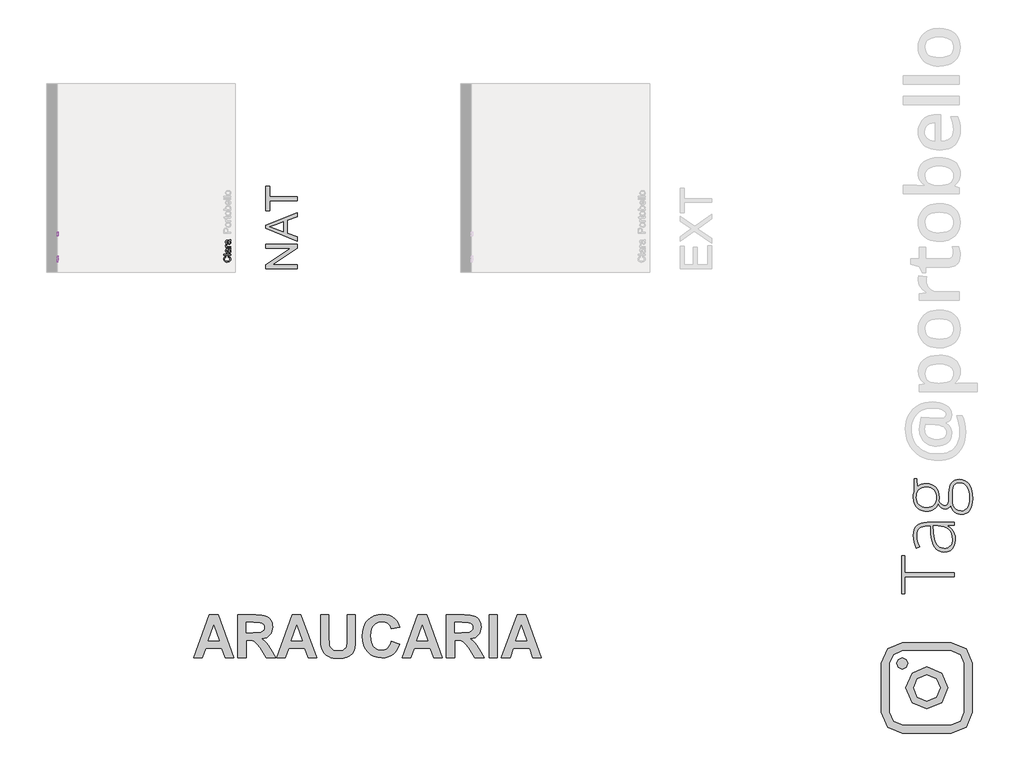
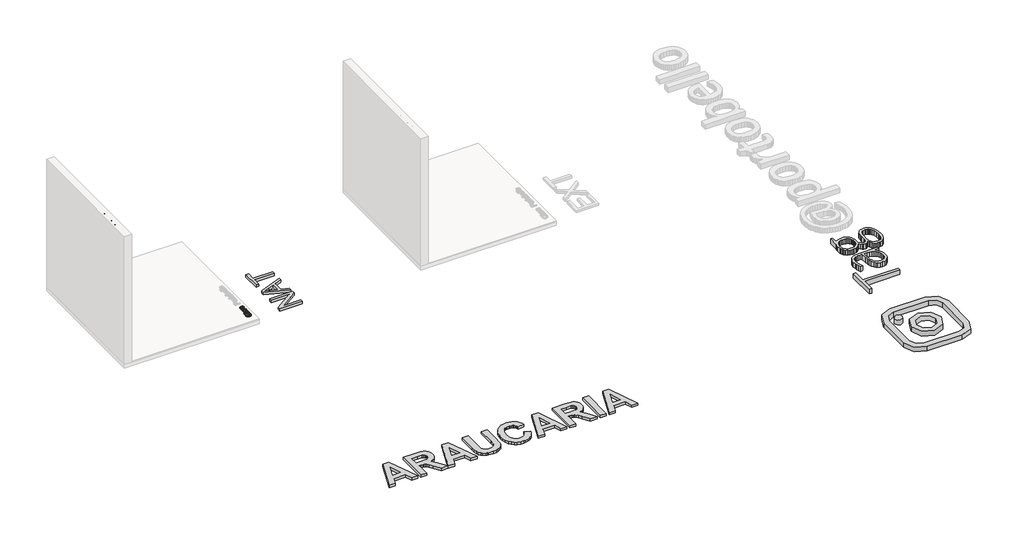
# One storey, part 2 of 6: 7 proxies.
"""IFC4 building model written with IfcOpenShell, lengths in millimetres."""

from ifc_helpers import new_model, si_unit, frame, origin, origin_with_axes, place, context, project, spatial, polyline, outline, extrude, transform, mapped, element, save
from components import generic_models_d67f6705

model = new_model("IFC4")

# Units and contexts
model_context = context("Model", 3, world=origin())
ifc_project = project(units=[si_unit("LENGTHUNIT", "METRE", prefix="MILLI")], contexts=[model_context])

# Site, building, storey
site = spatial("IfcSite", under=ifc_project)
building = spatial("IfcBuilding", under=site)
storey = spatial("IfcBuildingStorey", under=building, Name="PORTOBELLO - SHOWROOM", Elevation=0.0)

# Proxies
placement = place(None, origin())
generic_models_shape = generic_models_d67f6705(model_context)
element("IfcBuildingElementProxy", 1, Name="Blks_Instagram1 : Único 2", ObjectType="Blks_Instagram1 : Único 2", at=placement, inside=storey, context=model_context, shape_type="MappedRepresentation", body=[
    mapped(generic_models_shape, transform((157161.0536676, -13321.2406298, 0.0), x_axis=(-1.0, 0.0, 0.0), y_axis=(0.0, -1.0, 0.0), z_axis=(0.0, 0.0, 1.0))),
])
element("IfcBuildingElementProxy", 2, Name="10mm Arial", ObjectType="10mm Arial", at=placement, inside=storey, context=model_context, shape_type="SweptSolid", body=[
    extrude(outline(polyline([(-7152.1748639, 2563.7375666), (-7139.6178251, 2560.5002051), (-7145.4119666, 2545.8676987), (-7154.5047832, 2535.1776611), (-7166.4486853, 2528.6385586), (-7180.7960831, 2526.4588578), (-7195.3611445, 2528.1081954), (-7206.9279675, 2533.0562082), (-7215.7939236, 2541.131218), (-7222.256384, 2552.1615465), (-7227.5170965, 2579.0169322), (-7226.0302401, 2593.664767), (-7221.5696709, 2606.3137762), (-7214.3683809, 2616.5623555), (-7204.6593619, 2624.0089002), (-7193.1446554, 2628.5430458), (-7180.526303, 2630.0544276), (-7166.7583193, 2628.0985217), (-7155.3754373, 2622.2308039), (-7146.7332761, 2612.8130248), (-7141.187455, 2600.2069351), (-7153.7444938, 2597.2148282), (-7164.0451896, 2612.6536093), (-7181.0168123, 2617.4973889), (-7200.6617109, 2612.1263117), (-7211.7594844, 2597.7053375), (-7214.9600577, 2579.0414576), (-7211.1708732, 2557.4099963), (-7199.3741239, 2543.589896), (-7182.0468819, 2539.0158966), (-7171.5653107, 2540.5732637), (-7162.831179, 2545.245365), (-7156.2368943, 2552.9831497), (-7152.1748639, 2563.7375666)])), frame((144712.4628922, 0.0, 0.0), z_axis=(1.0, 0.0, 0.0), x_axis=(0.0, 1.0, 0.0)), (0.0, 0.0, 1.0), 20.0),
    extrude(outline(polyline([(144732.4628922, -7111.3644879), (144732.4628922, -7123.9215267), (144712.4628922, -7123.9215267), (144712.4628922, -7111.3644879), (144732.4628922, -7111.3644879)])), frame((0.0, 0.0, 2528.0284876), z_axis=(0.0, 0.0, 1.0), x_axis=(1.0, 0.0, 0.0)), (0.0, 0.0, 1.0), 100.4563101),
    extrude(outline(polyline([(-7045.4400344, 2537.4462667), (-7057.6169284, 2528.9359299), (-7071.0691467, 2526.4588578), (-7081.5629806, 2527.9487799), (-7089.3038309, 2532.4185461), (-7094.0770998, 2539.2059689), (-7095.6681894, 2547.6488607), (-7093.2646937, 2557.5816746), (-7086.9493862, 2564.7921617), (-7078.1570065, 2568.91244), (-7067.2922249, 2570.800901), (-7045.5136108, 2575.117383), (-7045.4400344, 2577.9132862), (-7048.8981251, 2587.1839125), (-7062.7795391, 2590.8136815), (-7075.4837306, 2588.3979231), (-7081.5415208, 2579.8262726), (-7094.0985596, 2581.3959024), (-7088.6661688, 2593.6586356), (-7077.7278108, 2600.8445972), (-7061.1608583, 2603.3707203), (-7045.9428064, 2601.1389028), (-7037.3466305, 2595.5348338), (-7033.4961323, 2587.0122342), (-7032.8829956, 2576.0248253), (-7032.8829956, 2560.4021032), (-7032.2453335, 2538.5867009), (-7029.7437359, 2528.0284876), (-7042.3007747, 2528.0284876), (-7045.4400344, 2537.4462667)]), holes=[polyline([(-7045.4400344, 2562.5603443), (-7065.6980696, 2558.709846), (-7076.5015375, 2556.6742323), (-7081.394368, 2553.3632944), (-7083.1111507, 2548.5317775), (-7079.3710171, 2541.7382233), (-7068.3958709, 2539.0158966), (-7055.6916793, 2542.0202662), (-7047.5001735, 2549.292067), (-7045.5136108, 2559.0041516), (-7045.4400344, 2562.5603443)])]), frame((144712.4628922, 0.0, 0.0), z_axis=(1.0, 0.0, 0.0), x_axis=(0.0, 1.0, 0.0)), (0.0, 0.0, 1.0), 20.0),
    extrude(outline(polyline([(-7015.6170673, 2528.0284876), (-7015.6170673, 2601.8010904), (-7004.6296584, 2601.8010904), (-7004.6296584, 2590.8872579), (-6996.8305601, 2600.9426991), (-6988.9824108, 2603.3707203), (-6976.3763211, 2599.4956966), (-6980.5701759, 2588.2385075), (-6989.3993438, 2590.8136815), (-6996.4994663, 2588.3366094), (-7001.0244148, 2581.4694788), (-7003.0600285, 2566.8032499), (-7003.0600285, 2528.0284876), (-7015.6170673, 2528.0284876)])), frame((144712.4628922, 0.0, 0.0), z_axis=(1.0, 0.0, 0.0), x_axis=(0.0, 1.0, 0.0)), (0.0, 0.0, 1.0), 20.0),
    extrude(outline(polyline([(-6921.4392765, 2537.4462667), (-6933.6161706, 2528.9359299), (-6947.0683889, 2526.4588578), (-6957.5622228, 2527.9487799), (-6965.3030731, 2532.4185461), (-6970.076342, 2539.2059689), (-6971.6674316, 2547.6488607), (-6969.2639359, 2557.5816746), (-6962.9486283, 2564.7921617), (-6954.1562486, 2568.91244), (-6943.291467, 2570.800901), (-6921.5128529, 2575.117383), (-6921.4392765, 2577.9132862), (-6924.8973673, 2587.1839125), (-6938.7787812, 2590.8136815), (-6951.4829728, 2588.3979231), (-6957.540763, 2579.8262726), (-6970.0978018, 2581.3959024), (-6964.665411, 2593.6586356), (-6953.727053, 2600.8445972), (-6937.1601005, 2603.3707203), (-6921.9420486, 2601.1389028), (-6913.3458726, 2595.5348338), (-6909.4953744, 2587.0122342), (-6908.8822378, 2576.0248253), (-6908.8822378, 2560.4021032), (-6908.2445756, 2538.5867009), (-6905.7429781, 2528.0284876), (-6918.3000168, 2528.0284876), (-6921.4392765, 2537.4462667)]), holes=[polyline([(-6921.4392765, 2562.5603443), (-6941.6973117, 2558.709846), (-6952.5007797, 2556.6742323), (-6957.3936102, 2553.3632944), (-6959.1103928, 2548.5317775), (-6955.3702592, 2541.7382233), (-6944.395113, 2539.0158966), (-6931.6909215, 2542.0202662), (-6923.4994157, 2549.292067), (-6921.5128529, 2559.0041516), (-6921.4392765, 2562.5603443)])]), frame((144712.4628922, 0.0, 0.0), z_axis=(1.0, 0.0, 0.0), x_axis=(0.0, 1.0, 0.0)), (0.0, 0.0, 1.0), 20.0),
])
element("IfcBuildingElementProxy", 3, Name="10mm Arial", ObjectType="10mm Arial", at=placement, inside=storey, context=model_context, shape_type="SweptSolid", body=[
    extrude(outline(polyline([(147162.6805155, -7154.2321856), (147165.9178771, -7141.6751468), (147180.5503834, -7147.4692882), (147191.2404211, -7156.5621049), (147197.7795235, -7168.506007), (147199.9592243, -7182.8534048), (147198.3098867, -7197.4184661), (147193.3618739, -7208.9852892), (147185.2868641, -7217.8512453), (147174.2565356, -7224.3137056), (147147.40115, -7229.5744182), (147132.7533152, -7228.0875618), (147120.1043059, -7223.6269926), (147109.8557267, -7216.4257025), (147102.409182, -7206.7166835), (147097.8750364, -7195.2019771), (147096.3636545, -7182.5836247), (147098.3195604, -7168.815641), (147104.1872783, -7157.4327589), (147113.6050573, -7148.7905977), (147126.211147, -7143.2447766), (147129.2032539, -7155.8018154), (147113.7644729, -7166.1025113), (147108.9206933, -7183.074134), (147114.2917704, -7202.7190325), (147128.7127446, -7213.816806), (147147.3766245, -7217.0173794), (147169.0080858, -7213.2281949), (147182.8281861, -7201.4314455), (147187.4021856, -7184.1042036), (147185.8448185, -7173.6226324), (147181.1727171, -7164.8885007), (147173.4349325, -7158.2942159), (147162.6805155, -7154.2321856)])), frame((0.0, 0.0, 17.0), z_axis=(0.0, 0.0, 1.0), x_axis=(1.0, 0.0, 0.0)), (0.0, 0.0, 1.0), 20.0),
    extrude(outline(polyline([(147198.3895945, -7125.9788483), (147097.9332844, -7125.9788483), (147097.9332844, -7113.4218096), (147198.3895945, -7113.4218096), (147198.3895945, -7125.9788483)])), frame((0.0, 0.0, 17.0), z_axis=(0.0, 0.0, 1.0), x_axis=(1.0, 0.0, 0.0)), (0.0, 0.0, 1.0), 20.0),
    extrude(outline(polyline([(147188.9718154, -7047.497356), (147197.4821522, -7059.6742501), (147199.9592243, -7073.1264684), (147198.4693023, -7083.6203023), (147193.999536, -7091.3611526), (147187.2121132, -7096.1344215), (147178.7692214, -7097.7255111), (147168.8364076, -7095.3220154), (147161.6259205, -7089.0067078), (147157.5056421, -7080.2143281), (147155.6171812, -7069.3495465), (147151.3006991, -7047.5709324), (147148.504796, -7047.497356), (147139.2341697, -7050.9554468), (147135.6044007, -7064.8368607), (147138.0201591, -7077.5410523), (147146.5918096, -7083.5988425), (147145.0221797, -7096.1558813), (147132.7594466, -7090.7234905), (147125.5734849, -7079.7851325), (147123.0473619, -7063.21818), (147125.2791793, -7048.0001281), (147130.8832484, -7039.4039521), (147139.4058479, -7035.5534539), (147150.3932569, -7034.9403173), (147166.0159789, -7034.9403173), (147187.8313812, -7034.3026551), (147198.3895945, -7031.8010576), (147198.3895945, -7044.3580963), (147188.9718154, -7047.497356)]), holes=[polyline([(147163.8577379, -7047.497356), (147167.7082361, -7067.7553912), (147169.7438498, -7078.5588592), (147173.0547878, -7083.4516897), (147177.8863046, -7085.1684723), (147184.6798588, -7081.4283387), (147187.4021856, -7070.4531925), (147184.397816, -7057.749001), (147177.1260152, -7049.5574952), (147167.4139305, -7047.5709324), (147163.8577379, -7047.497356)])]), frame((0.0, 0.0, 17.0), z_axis=(0.0, 0.0, 1.0), x_axis=(1.0, 0.0, 0.0)), (0.0, 0.0, 1.0), 20.0),
    extrude(outline(polyline([(147198.3895945, -7017.674389), (147124.6169917, -7017.674389), (147124.6169917, -7006.68698), (147135.5308243, -7006.68698), (147125.4753831, -6998.8878817), (147123.0473619, -6991.0397325), (147126.9223856, -6978.4336428), (147138.1795746, -6982.6274975), (147135.6044007, -6991.4566654), (147138.0814728, -6998.5567879), (147144.9486033, -7003.0817365), (147159.6148322, -7005.1173502), (147198.3895945, -7005.1173502), (147198.3895945, -7017.674389)])), frame((0.0, 0.0, 17.0), z_axis=(0.0, 0.0, 1.0), x_axis=(1.0, 0.0, 0.0)), (0.0, 0.0, 1.0), 20.0),
    extrude(outline(polyline([(147188.9718154, -6923.4965982), (147197.4821522, -6935.6734922), (147199.9592243, -6949.1257105), (147198.4693023, -6959.6195444), (147193.999536, -6967.3603947), (147187.2121132, -6972.1336636), (147178.7692214, -6973.7247533), (147168.8364076, -6971.3212576), (147161.6259205, -6965.00595), (147157.5056421, -6956.2135703), (147155.6171812, -6945.3487887), (147151.3006991, -6923.5701746), (147148.504796, -6923.4965982), (147139.2341697, -6926.9546889), (147135.6044007, -6940.8361029), (147138.0201591, -6953.5402945), (147146.5918096, -6959.5980846), (147145.0221797, -6972.1551234), (147132.7594466, -6966.7227326), (147125.5734849, -6955.7843746), (147123.0473619, -6939.2174221), (147125.2791793, -6923.9993702), (147130.8832484, -6915.4031943), (147139.4058479, -6911.5526961), (147150.3932569, -6910.9395594), (147166.0159789, -6910.9395594), (147187.8313812, -6910.3018973), (147198.3895945, -6907.8002997), (147198.3895945, -6920.3573385), (147188.9718154, -6923.4965982)]), holes=[polyline([(147163.8577379, -6923.4965982), (147167.7082361, -6943.7546334), (147169.7438498, -6954.5581013), (147173.0547878, -6959.4509319), (147177.8863046, -6961.1677145), (147184.6798588, -6957.4275809), (147187.4021856, -6946.4524347), (147184.397816, -6933.7482431), (147177.1260152, -6925.5567374), (147167.4139305, -6923.5701746), (147163.8577379, -6923.4965982)])]), frame((0.0, 0.0, 17.0), z_axis=(0.0, 0.0, 1.0), x_axis=(1.0, 0.0, 0.0)), (0.0, 0.0, 1.0), 20.0),
])
element("IfcBuildingElementProxy", 4, Name="10mm Arial Narrow", ObjectType="10mm Arial Narrow", at=placement, inside=storey, context=model_context, shape_type="SweptSolid", body=[
    extrude(outline(polyline([(-6855.6731479, 2528.0284876), (-6855.6731479, 2628.7470914), (-6824.3762632, 2628.7470914), (-6808.0805617, 2626.8687707), (-6796.6075755, 2617.3883275), (-6792.3178971, 2600.3692187), (-6794.1042055, 2588.2933931), (-6799.4631307, 2578.6669994), (-6809.2069195, 2572.365741), (-6824.1478188, 2570.2653215), (-6845.9261862, 2570.2653215), (-6845.9261862, 2528.0284876), (-6855.6731479, 2528.0284876)]), holes=[polyline([(-6845.9261862, 2581.6367767), (-6822.9548313, 2581.6367767), (-6807.0906359, 2586.1675909), (-6802.0648588, 2599.8361817), (-6804.5396732, 2610.0019581), (-6810.5173021, 2615.801908), (-6823.1832757, 2617.3756361), (-6845.9261862, 2617.3756361), (-6845.9261862, 2581.6367767)])]), frame((144712.4628922, 0.0, 0.0), z_axis=(1.0, 0.0, 0.0), x_axis=(0.0, 1.0, 0.0)), (0.0, 0.0, 1.0), 20.0),
    extrude(outline(polyline([(-6784.1954291, 2564.5795938), (-6782.2409602, 2581.1703694), (-6776.3775536, 2593.1224542), (-6767.5189869, 2600.3470088), (-6756.5790377, 2602.7551937), (-6745.7660021, 2600.3470088), (-6736.8820527, 2593.1224542), (-6730.9424979, 2581.3607397), (-6728.9626464, 2565.3410752), (-6730.9075967, 2548.1791886), (-6736.7424478, 2536.0367335), (-6745.591496, 2528.8121789), (-6756.5790377, 2526.403994), (-6767.4396659, 2528.8185246), (-6776.3140968, 2536.0621162), (-6782.225096, 2548.0205467), (-6784.1954291, 2564.5795938)]), holes=[polyline([(-6774.4484674, 2564.6049766), (-6773.1444306, 2552.0532252), (-6769.23232, 2543.1819671), (-6763.3911232, 2537.9087085), (-6756.2998279, 2536.1509557), (-6749.5797547, 2537.9245727), (-6743.8876814, 2543.2454239), (-6740.0041264, 2552.1325461), (-6738.709608, 2564.6049766), (-6740.0136449, 2577.1186539), (-6743.9257555, 2585.9772206), (-6749.7669522, 2591.2504792), (-6756.8582476, 2593.008232), (-6763.6259133, 2591.2409606), (-6769.3084681, 2585.9391465), (-6773.1634676, 2577.0710613), (-6774.4484674, 2564.6049766)])]), frame((144712.4628922, 0.0, 0.0), z_axis=(1.0, 0.0, 0.0), x_axis=(0.0, 1.0, 0.0)), (0.0, 0.0, 1.0), 20.0),
    extrude(outline(polyline([(-6657.4849276, 2536.1509557), (-6655.860434, 2526.403994), (-6663.2214206, 2526.403994), (-6671.4961849, 2528.5234505), (-6675.8112461, 2534.3234004), (-6676.9788509, 2548.9692256), (-6676.9788509, 2591.3837384), (-6685.1013189, 2591.3837384), (-6685.1013189, 2594.6327256), (-6686.7258125, 2589.7592448), (-6694.2898609, 2591.3837384), (-6700.3690206, 2589.0612202), (-6704.2398843, 2582.5759371), (-6706.2197358, 2567.1686305), (-6706.2197358, 2528.0284876), (-6715.9666975, 2528.0284876), (-6715.9666975, 2601.1307001), (-6706.2197358, 2601.1307001), (-6706.2197358, 2591.4345038), (-6699.9755885, 2600.5215149), (-6693.5791449, 2602.7551937), (-6685.1013189, 2601.1307001), (-6676.9788509, 2601.1307001), (-6676.9788509, 2617.3756361), (-6667.2318892, 2625.4981042), (-6667.2318892, 2601.1307001), (-6657.4849276, 2601.1307001), (-6657.4849276, 2591.3837384), (-6667.2318892, 2591.3837384), (-6667.2318892, 2546.7355469), (-6666.368877, 2538.7399924), (-6661.7492233, 2536.1509557), (-6657.4849276, 2536.1509557)])), frame((144712.4628922, 0.0, 0.0), z_axis=(1.0, 0.0, 0.0), x_axis=(0.0, 1.0, 0.0)), (0.0, 0.0, 1.0), 20.0),
    extrude(outline(polyline([(-6650.9869531, 2564.5795938), (-6649.0324843, 2581.1703694), (-6643.1690776, 2593.1224542), (-6634.3105109, 2600.3470088), (-6623.3705618, 2602.7551937), (-6612.5575262, 2600.3470088), (-6603.6735768, 2593.1224542), (-6597.734022, 2581.3607397), (-6595.7541704, 2565.3410752), (-6597.6991208, 2548.1791886), (-6603.5339719, 2536.0367335), (-6612.38302, 2528.8121789), (-6623.3705618, 2526.403994), (-6634.23119, 2528.8185246), (-6643.1056209, 2536.0621162), (-6649.0166201, 2548.0205467), (-6650.9869531, 2564.5795938)]), holes=[polyline([(-6641.2399915, 2564.6049766), (-6639.9359546, 2552.0532252), (-6636.023844, 2543.1819671), (-6630.1826473, 2537.9087085), (-6623.0913519, 2536.1509557), (-6616.3712788, 2537.9245727), (-6610.6792055, 2543.2454239), (-6606.7956504, 2552.1325461), (-6605.5011321, 2564.6049766), (-6606.8051689, 2577.1186539), (-6610.7172795, 2585.9772206), (-6616.5584763, 2591.2504792), (-6623.6497716, 2593.008232), (-6630.4174374, 2591.2409606), (-6636.0999922, 2585.9391465), (-6639.9549917, 2577.0710613), (-6641.2399915, 2564.6049766)])]), frame((144712.4628922, 0.0, 0.0), z_axis=(1.0, 0.0, 0.0), x_axis=(0.0, 1.0, 0.0)), (0.0, 0.0, 1.0), 20.0),
    extrude(outline(polyline([(-6573.0112599, 2528.0284876), (-6582.7582216, 2528.0284876), (-6582.7582216, 2628.7470914), (-6573.0112599, 2628.7470914), (-6573.0112599, 2593.3382073), (-6565.6121992, 2600.4199841), (-6556.4109658, 2602.7551937), (-6543.5292392, 2598.5543547), (-6534.2518577, 2585.8249243), (-6530.7744261, 2565.1380135), (-6532.7066851, 2548.6836701), (-6538.5034621, 2536.480931), (-6546.8765844, 2528.9232283), (-6556.5378794, 2526.403994), (-6565.8787177, 2529.0184134), (-6573.0112599, 2536.7855235), (-6573.0112599, 2528.0284876)]), holes=[polyline([(-6573.0112599, 2565.1380135), (-6570.9298775, 2547.8904603), (-6565.0410881, 2539.1588071), (-6556.5886448, 2536.1509557), (-6550.6459172, 2537.9404369), (-6545.4075599, 2543.3088807), (-6540.5213877, 2564.7318901), (-6545.2298809, 2586.1675909), (-6550.4745839, 2591.2980717), (-6556.7917065, 2593.008232), (-6562.7693354, 2591.2187508), (-6568.0616309, 2585.850307), (-6573.0112599, 2565.1380135)])]), frame((144712.4628922, 0.0, 0.0), z_axis=(1.0, 0.0, 0.0), x_axis=(0.0, 1.0, 0.0)), (0.0, 0.0, 1.0), 20.0),
    extrude(outline(polyline([(-6478.7906306, 2550.7713982), (-6469.0436689, 2549.1469046), (-6472.7431993, 2539.260338), (-6478.5621862, 2532.1404871), (-6486.2658395, 2527.8381173), (-6495.6193691, 2526.403994), (-6507.2129231, 2528.8185246), (-6516.3570453, 2536.0621162), (-6522.2966001, 2547.8682504), (-6524.2764516, 2563.9704087), (-6522.2870815, 2580.6373324), (-6516.3189712, 2592.8178617), (-6507.3049354, 2600.2708607), (-6496.1777887, 2602.7551937), (-6485.4948396, 2600.3565273), (-6476.7473222, 2593.1605283), (-6470.9124712, 2581.4210237), (-6468.9675208, 2565.3918407), (-6469.0436689, 2562.1428534), (-6514.52949, 2562.1428534), (-6508.5264784, 2542.6996956), (-6502.5964422, 2537.7881407), (-6495.4924555, 2536.1509557), (-6485.3139877, 2539.8060663), (-6478.7906306, 2550.7713982)]), holes=[polyline([(-6513.8695395, 2571.8898151), (-6478.7906306, 2571.8898151), (-6483.0549263, 2586.1548996), (-6488.8802589, 2591.2948989), (-6496.1016406, 2593.008232), (-6508.3107254, 2587.2971217), (-6513.8695395, 2571.8898151)])]), frame((144712.4628922, 0.0, 0.0), z_axis=(1.0, 0.0, 0.0), x_axis=(0.0, 1.0, 0.0)), (0.0, 0.0, 1.0), 20.0),
    extrude(outline(polyline([(144732.4628922, -6446.3007584), (144732.4628922, -6456.0477201), (144712.4628922, -6456.0477201), (144712.4628922, -6446.3007584), (144732.4628922, -6446.3007584)])), frame((0.0, 0.0, 2528.0284876), z_axis=(0.0, 0.0, 1.0), x_axis=(1.0, 0.0, 0.0)), (0.0, 0.0, 1.0), 100.7186038),
    extrude(outline(polyline([(144732.4628922, -6420.3088607), (144732.4628922, -6430.0558223), (144712.4628922, -6430.0558223), (144712.4628922, -6420.3088607), (144732.4628922, -6420.3088607)])), frame((0.0, 0.0, 2528.0284876), z_axis=(0.0, 0.0, 1.0), x_axis=(1.0, 0.0, 0.0)), (0.0, 0.0, 1.0), 100.7186038),
    extrude(outline(polyline([(-6408.9374054, 2564.5795938), (-6406.9829365, 2581.1703694), (-6401.1195299, 2593.1224542), (-6392.2609632, 2600.3470088), (-6381.3210141, 2602.7551937), (-6370.5079785, 2600.3470088), (-6361.624029, 2593.1224542), (-6355.6844743, 2581.3607397), (-6353.7046227, 2565.3410752), (-6355.6495731, 2548.1791886), (-6361.4844241, 2536.0367335), (-6370.3334723, 2528.8121789), (-6381.3210141, 2526.403994), (-6392.1816422, 2528.8185246), (-6401.0560731, 2536.0621162), (-6406.9670723, 2548.0205467), (-6408.9374054, 2564.5795938)]), holes=[polyline([(-6399.1904438, 2564.6049766), (-6397.8864069, 2552.0532252), (-6393.9742963, 2543.1819671), (-6388.1330996, 2537.9087085), (-6381.0418042, 2536.1509557), (-6374.321731, 2537.9245727), (-6368.6296577, 2543.2454239), (-6364.7461027, 2552.1325461), (-6363.4515844, 2564.6049766), (-6364.7556212, 2577.1186539), (-6368.6677318, 2585.9772206), (-6374.5089285, 2591.2504792), (-6381.6002239, 2593.008232), (-6388.3678897, 2591.2409606), (-6394.0504444, 2585.9391465), (-6397.9054439, 2577.0710613), (-6399.1904438, 2564.6049766)])]), frame((144712.4628922, 0.0, 0.0), z_axis=(1.0, 0.0, 0.0), x_axis=(0.0, 1.0, 0.0)), (0.0, 0.0, 1.0), 20.0),
])
element("IfcBuildingElementProxy", 5, Name="450mm Arial", ObjectType="450mm Arial", at=placement, inside=storey, context=model_context, shape_type="SweptSolid", body=[
    extrude(outline(polyline([(148149.8667023, -7322.473799), (147700.2105594, -7322.473799), (147700.2105594, -7262.3147252), (148056.444491, -7027.3869553), (147700.2105594, -7027.3869553), (147700.2105594, -6971.1799375), (148149.8667023, -6971.1799375), (148149.8667023, -7031.3390112), (147793.5229914, -7266.2667812), (148149.8667023, -7266.2667812), (148149.8667023, -7322.473799)])), origin_with_axes(), (0.0, 0.0, 1.0), 50.0),
    extrude(outline(polyline([(148149.8667023, -6925.1823975), (147700.2105594, -6745.6931901), (147700.2105594, -6697.8294014), (148149.8667023, -6518.340194), (148149.8667023, -6577.7308125), (148009.3491576, -6629.2173191), (148009.3491576, -6814.4150517), (148149.8667023, -6865.791779), (148149.8667023, -6925.1823975)]), holes=[polyline([(147953.1421398, -6793.7765374), (147953.1421398, -6649.7460541), (147842.5943527, -6690.2546275), (147756.4175773, -6721.7612957), (147832.9337715, -6749.7550253), (147953.1421398, -6793.7765374)])]), origin_with_axes(), (0.0, 0.0, 1.0), 50.0),
    extrude(outline(polyline([(148149.8667023, -6345.8768638), (147756.4175773, -6345.8768638), (147756.4175773, -6493.4202857), (147700.2105594, -6493.4202857), (147700.2105594, -6142.1264241), (147756.4175773, -6142.1264241), (147756.4175773, -6289.669846), (148149.8667023, -6289.669846), (148149.8667023, -6345.8768638)])), origin_with_axes(), (0.0, 0.0, 1.0), 50.0),
])
element("IfcBuildingElementProxy", 6, Name="600mm Arial", ObjectType="600mm Arial", at=placement, inside=storey, context=model_context, shape_type="SweptSolid", body=[
    extrude(outline(polyline([(147243.3485604, -12888.7002712), (147120.8263378, -12888.7002712), (147072.8498541, -12752.6656845), (146841.6214216, -12752.6656845), (146794.2522352, -12888.7002712), (146670.0599451, -12888.7002712), (146893.5453375, -12276.5446312), (147017.7376276, -12276.5446312), (147243.3485604, -12888.7002712)]), holes=[polyline([(147035.5010725, -12645.7813664), (146956.7042527, -12422.2959741), (146878.9702032, -12645.7813664), (147035.5010725, -12645.7813664)])]), origin_with_axes(), (0.0, 0.0, 1.0), 50.0),
    extrude(outline(polyline([(147301.6490975, -12888.7002712), (147301.6490975, -12276.5446312), (147559.1431365, -12276.5446312), (147643.0260708, -12280.6818438), (147675.0040673, -12285.8533596), (147700.3397499, -12293.0934816), (147721.2535494, -12302.9810401), (147739.9658963, -12316.0948654), (147756.4767906, -12332.4349574), (147770.7862323, -12352.001316), (147782.3438583, -12373.9494186), (147790.5993055, -12397.4347424), (147795.5525738, -12422.4572874), (147797.2036632, -12449.0170536), (147794.8171747, -12482.1242434), (147787.6577094, -12512.2139249), (147775.7252671, -12539.2860982), (147759.0198478, -12563.3407631), (147737.5604298, -12583.7990896), (147711.3659908, -12600.0822475), (147680.4365311, -12612.1902366), (147644.7720505, -12620.1230571), (147678.5909167, -12644.4908598), (147705.9572496, -12671.1360271), (147734.2724844, -12709.7373593), (147770.9380566, -12769.9736565), (147845.7874441, -12888.7002712), (147709.6010332, -12888.7002712), (147620.9356329, -12748.8700766), (147578.1021979, -12695.1812031), (147551.3241843, -12665.8980882), (147532.0045401, -12651.4937563), (147511.5462136, -12642.4412315), (147484.3886392, -12637.6587656), (147444.9712513, -12636.0646103), (147418.2501718, -12636.0646103), (147418.2501718, -12888.7002712), (147301.6490975, -12888.7002712)]), holes=[polyline([(147418.2501718, -12529.1802922), (147514.3549635, -12529.1802922), (147590.2101871, -12527.4153345), (147631.0319499, -12522.1204615), (147651.793925, -12512.5175735), (147667.4697856, -12497.828571), (147677.3193881, -12478.4519928), (147680.6025889, -12454.7863776), (147676.2755959, -12428.5777051), (147663.2946169, -12407.9485763), (147642.4187736, -12393.39242), (147614.4071874, -12385.4026654), (147519.6688145, -12383.4289493), (147418.2501718, -12383.4289493), (147418.2501718, -12529.1802922)])]), origin_with_axes(), (0.0, 0.0, 1.0), 50.0),
    extrude(outline(polyline([(148428.7928155, -12888.7002712), (148306.270593, -12888.7002712), (148258.2941093, -12752.6656845), (148027.0656768, -12752.6656845), (147979.6964904, -12888.7002712), (147855.5042003, -12888.7002712), (148078.9895927, -12276.5446312), (148203.1818828, -12276.5446312), (148428.7928155, -12888.7002712)]), holes=[polyline([(148220.9453277, -12645.7813664), (148142.1485079, -12422.2959741), (148064.4144584, -12645.7813664), (148220.9453277, -12645.7813664)])]), origin_with_axes(), (0.0, 0.0, 1.0), 50.0),
    extrude(outline(polyline([(148487.0933527, -12276.5446312), (148603.694427, -12276.5446312), (148603.694427, -12606.7625174), (148604.9469776, -12671.5915001), (148608.7046294, -12708.7884574), (148614.5213985, -12726.5471578), (148623.3177197, -12742.4744774), (148635.0935932, -12756.5704161), (148649.8490189, -12768.8349741), (148667.5839967, -12778.7652333), (148688.2985268, -12785.8582755), (148738.6662434, -12791.5327093), (148788.977026, -12786.1809022), (148808.8233107, -12779.4911433), (148825.1301911, -12770.1254808), (148848.4162455, -12746.2700852), (148860.1256958, -12717.5183555), (148864.566557, -12676.0133833), (148866.0468441, -12613.8982602), (148866.0468441, -12276.5446312), (148982.6479184, -12276.5446312), (148982.6479184, -12597.6530584), (148980.1048611, -12691.6702658), (148972.4756892, -12753.2729818), (148958.0144232, -12795.1575148), (148934.9750833, -12830.0201733), (148903.035043, -12858.1646057), (148861.8716754, -12879.8944609), (148809.0937478, -12893.7863858), (148742.310027, -12898.4170274), (148664.0825484, -12893.3688689), (148633.0249869, -12887.0586708), (148607.3382105, -12878.2243934), (148566.155865, -12854.9952732), (148534.6143634, -12825.6931803), (148512.4480134, -12792.5575234), (148499.3911222, -12757.8277113), (148490.1677951, -12692.7709921), (148487.0933527, -12602.6632608), (148487.0933527, -12276.5446312)])), origin_with_axes(), (0.0, 0.0, 1.0), 50.0),
    extrude(outline(polyline([(149497.6359965, -12655.4981226), (149614.2370707, -12694.3651474), (149598.1342043, -12740.4675497), (149577.4576303, -12780.2407758), (149552.2073488, -12813.6848258), (149522.3833599, -12840.7996997), (149488.1090207, -12861.7561997), (149449.5076884, -12876.7251283), (149406.5793632, -12885.7064855), (149359.3240451, -12888.7002712), (149300.9381067, -12883.5856896), (149247.9988657, -12868.2419447), (149200.5063221, -12842.6690365), (149158.4604757, -12806.8669652), (149124.0532902, -12762.1926603), (149099.4767291, -12710.0030519), (149084.7307925, -12650.2981398), (149079.8154803, -12583.0779242), (149084.7734931, -12512.1949469), (149099.6475315, -12449.700263), (149124.4375955, -12395.5938726), (149140.5511371, -12371.6862874), (149159.1436851, -12349.8757756), (149201.9344195, -12313.5423191), (149250.9784179, -12287.5898502), (149306.2756803, -12272.0183688), (149367.8262067, -12266.827875), (149421.6479266, -12271.1074229), (149470.1557954, -12283.9460666), (149513.3498131, -12305.3438061), (149551.2299798, -12335.3006413), (149570.9386738, -12357.7042169), (149588.0094202, -12384.5296756), (149602.4422192, -12415.7770175), (149614.2370707, -12451.4462426), (149497.6359965, -12470.879755), (149490.2867507, -12449.5247161), (149479.7776613, -12430.5514212), (149466.1087284, -12413.9598702), (149449.279952, -12399.7500632), (149429.8796512, -12388.3584951), (149408.4961452, -12380.2216606), (149385.1294342, -12375.33956), (149359.779518, -12373.7121931), (149325.1303625, -12376.6680228), (149293.9067431, -12385.5355117), (149266.1086599, -12400.3146599), (149241.7361127, -12421.0054674), (149221.908806, -12448.3101216), (149207.7464441, -12482.9308101), (149199.2490269, -12524.8675327), (149196.4165546, -12574.1202895), (149199.1636258, -12626.2529639), (149207.4048394, -12670.3009934), (149221.1401954, -12706.2643781), (149240.3696939, -12734.143118), (149264.0020975, -12754.9999834), (149290.946169, -12769.8977443), (149321.2019083, -12778.8364009), (149354.7693156, -12781.8159531), (149379.758649, -12779.9134046), (149402.9545577, -12774.2057593), (149424.3570417, -12764.693017), (149443.9661009, -12751.3751778), (149461.3547296, -12733.9675712), (149476.0959217, -12712.1855264), (149488.1896773, -12686.0290436), (149497.6359965, -12655.4981226)])), origin_with_axes(), (0.0, 0.0, 1.0), 50.0),
    extrude(outline(polyline([(150226.3927107, -12888.7002712), (150103.8704881, -12888.7002712), (150055.8940044, -12752.6656845), (149824.665572, -12752.6656845), (149777.2963855, -12888.7002712), (149653.1040955, -12888.7002712), (149876.5894879, -12276.5446312), (150000.7817779, -12276.5446312), (150226.3927107, -12888.7002712)]), holes=[polyline([(150018.5452228, -12645.7813664), (149939.7484031, -12422.2959741), (149862.0143536, -12645.7813664), (150018.5452228, -12645.7813664)])]), origin_with_axes(), (0.0, 0.0, 1.0), 50.0),
    extrude(outline(polyline([(150284.6932478, -12888.7002712), (150284.6932478, -12276.5446312), (150542.1872869, -12276.5446312), (150626.0702212, -12280.6818438), (150658.0482176, -12285.8533596), (150683.3839003, -12293.0934816), (150704.2976997, -12302.9810401), (150723.0100466, -12316.0948654), (150739.5209409, -12332.4349574), (150753.8303826, -12352.001316), (150765.3880087, -12373.9494186), (150773.6434558, -12397.4347424), (150778.5967241, -12422.4572874), (150780.2478135, -12449.0170536), (150777.8613251, -12482.1242434), (150770.7018597, -12512.2139249), (150758.7694174, -12539.2860982), (150742.0639982, -12563.3407631), (150720.6045801, -12583.7990896), (150694.4101412, -12600.0822475), (150663.4806814, -12612.1902366), (150627.8162008, -12620.1230571), (150661.6350671, -12644.4908598), (150689.0013999, -12671.1360271), (150717.3166348, -12709.7373593), (150753.982207, -12769.9736565), (150828.8315945, -12888.7002712), (150692.6451835, -12888.7002712), (150603.9797833, -12748.8700766), (150561.1463483, -12695.1812031), (150534.3683346, -12665.8980882), (150515.0486905, -12651.4937563), (150494.590364, -12642.4412315), (150467.4327896, -12637.6587656), (150428.0154016, -12636.0646103), (150401.2943221, -12636.0646103), (150401.2943221, -12888.7002712), (150284.6932478, -12888.7002712)]), holes=[polyline([(150401.2943221, -12529.1802922), (150497.3991138, -12529.1802922), (150573.2543374, -12527.4153345), (150614.0761003, -12522.1204615), (150634.8380754, -12512.5175735), (150650.513936, -12497.828571), (150660.3635384, -12478.4519928), (150663.6467393, -12454.7863776), (150659.3197463, -12428.5777051), (150646.3387673, -12407.9485763), (150625.4629239, -12393.39242), (150597.4513377, -12385.4026654), (150502.7129649, -12383.4289493), (150401.2943221, -12383.4289493), (150401.2943221, -12529.1802922)])]), origin_with_axes(), (0.0, 0.0, 1.0), 50.0),
    extrude(outline(polyline([(150896.8488878, -12888.7002712), (150896.8488878, -12276.5446312), (151013.4499621, -12276.5446312), (151013.4499621, -12888.7002712), (150896.8488878, -12888.7002712)])), origin_with_axes(), (0.0, 0.0, 1.0), 50.0),
    extrude(outline(polyline([(151645.0391145, -12888.7002712), (151522.5168919, -12888.7002712), (151474.5404082, -12752.6656845), (151243.3119757, -12752.6656845), (151195.9427893, -12888.7002712), (151071.7504992, -12888.7002712), (151295.2358916, -12276.5446312), (151419.4281817, -12276.5446312), (151645.0391145, -12888.7002712)]), holes=[polyline([(151437.1916266, -12645.7813664), (151358.3948068, -12422.2959741), (151280.6607573, -12645.7813664), (151437.1916266, -12645.7813664)])]), origin_with_axes(), (0.0, 0.0, 1.0), 50.0),
])
element("IfcBuildingElementProxy", 7, Name="80mm OpenSans Light", ObjectType="80mm OpenSans Light", at=placement, inside=storey, context=model_context, shape_type="SweptSolid", body=[
    extrude(outline(polyline([(157552.7666523, -11675.6088843), (157552.7666523, -11729.4509987), (156847.050368, -11729.4509987), (156847.050368, -11975.1056453), (156798.9770517, -11975.1056453), (156798.9770517, -11429.9542377), (156847.050368, -11429.9542377), (156847.050368, -11675.6088843), (157552.7666523, -11675.6088843)])), origin_with_axes(), (0.0, 0.0, 1.0), 100.0),
    extrude(outline(polyline([(156968.1951253, -11136.2262747), (156971.1696617, -11092.8551296), (156980.0932711, -11055.2828283), (156994.9659533, -11023.5093708), (157015.7877085, -10997.534757), (157043.1143843, -10977.3439641), (157077.5018284, -10962.9219692), (157118.9500408, -10954.2687723), (157167.4590216, -10951.3843733), (157552.7666523, -10951.3843733), (157552.7666523, -10991.765959), (157459.264052, -11001.1402557), (157459.264052, -11004.2650213), (157489.2197372, -11024.2755392), (157515.6300154, -11048.2521058), (157537.5935118, -11077.0960956), (157554.2088518, -11111.7088834), (157564.6647981, -11153.3523937), (157568.1501135, -11203.288551), (157563.4028735, -11253.6753958), (157549.1611536, -11296.1902349), (157525.8155493, -11330.3823812), (157493.7566565, -11355.8011472), (157453.4652082, -11371.5752042), (157405.4219376, -11376.8332231), (157364.0638627, -11372.4916017), (157327.9638066, -11359.4667376), (157297.1217696, -11337.7586307), (157271.5377516, -11307.367281), (157251.0915692, -11268.8485362), (157235.6630392, -11222.7582442), (157225.2521616, -11169.0964048), (157219.8589365, -11107.8630181), (157214.3305051, -11003.0631884), (157173.2278196, -11003.0631884), (157133.0640661, -11005.2039533), (157099.1047749, -11011.6262479), (157071.3499462, -11022.3300722), (157049.7995798, -11037.3154263), (157033.6574616, -11056.4771497), (157022.1273771, -11079.7100822), (157015.2093264, -11107.0142236), (157012.9033095, -11138.389574), (157015.6675252, -11181.0546422), (157023.9601723, -11222.0371444), (157037.4807925, -11262.5389135), (157055.9289277, -11303.7617823), (157012.4225763, -11320.3470764), (156994.8758159, -11278.4631995), (156980.6941875, -11233.5747404), (156971.3198909, -11186.0422488), (156968.1951253, -11136.2262747)]), holes=[polyline([(157255.4331906, -11003.5439215), (157259.759789, -11102.0942201), (157264.3868457, -11152.5937366), (157272.7395845, -11196.6484242), (157284.8180052, -11234.2582828), (157300.622108, -11265.4233125), (157320.4823968, -11289.8731007), (157344.7293757, -11307.3372352), (157373.3630448, -11317.8157158), (157406.383404, -11321.3085427), (157433.0941404, -11319.220358), (157456.4998363, -11312.955804), (157476.6004917, -11302.5148806), (157493.3961066, -11287.8975879), (157506.6463144, -11269.5546131), (157516.1107486, -11247.9366436), (157521.7894091, -11223.0436795), (157523.6822959, -11194.8757207), (157520.1744461, -11151.2266517), (157509.6508967, -11113.0609454), (157492.1116477, -11080.3786017), (157467.556699, -11053.1796207), (157436.9324942, -11031.7344147), (157401.1854766, -11016.3133962), (157360.3156463, -11006.9165651), (157314.3230031, -11003.5439215), (157255.4331906, -11003.5439215)])]), origin_with_axes(), (0.0, 0.0, 1.0), 100.0),
    extrude(outline(polyline([(157814.2854933, -10614.8711587), (157811.6790182, -10665.0251483), (157803.8595928, -10709.2450879), (157790.8272172, -10747.5309775), (157772.5818914, -10779.8828172), (157749.6644401, -10805.59453), (157722.6156882, -10823.9600391), (157691.4356356, -10834.9793446), (157656.1242825, -10838.6524464), (157628.159133, -10836.4215441), (157602.1920307, -10829.7288371), (157578.2229756, -10818.5743254), (157556.2519677, -10802.958009), (157537.3756796, -10783.5108502), (157522.6907837, -10760.8638114), (157512.1972802, -10735.0168924), (157505.8951688, -10705.9700932), (157491.9539071, -10728.1739562), (157473.6860469, -10745.7507625), (157451.632413, -10757.198221), (157426.3338303, -10761.0140405), (157397.0992447, -10756.4771212), (157369.9678668, -10742.8663636), (157344.8796048, -10720.1817674), (157321.7743672, -10688.4233328), (157311.3109094, -10711.521059), (157297.7076632, -10732.0198215), (157280.9646284, -10749.9196204), (157261.0818052, -10765.2204557), (157238.5399267, -10777.4716399), (157213.8197261, -10786.2224858), (157186.9212033, -10791.4729933), (157157.8443584, -10793.2231624), (157129.9468119, -10791.6983369), (157103.9421524, -10787.1238604), (157079.8303796, -10779.4997329), (157057.6114937, -10768.8259544), (157037.5333727, -10755.3504029), (157019.8438946, -10739.3209565), (157004.5430593, -10720.7376151), (156991.630867, -10699.6003788), (156981.37773, -10676.1571256), (156974.0540607, -10650.6557336), (156968.1951253, -10593.4785329), (156969.2767749, -10559.7070282), (156972.6419071, -10531.4639548), (156978.5308883, -10508.1483964), (156978.5308883, -10326.190894), (157016.0280751, -10326.190894), (157023.7198057, -10442.287953), (157052.7140246, -10422.3074809), (157083.9316344, -10408.0357151), (157117.1322686, -10399.4726556), (157152.0755604, -10396.6183024), (157192.5322607, -10399.9233429), (157228.5722251, -10409.8384644), (157260.1954535, -10426.3636669), (157287.401946, -10449.4989504), (157309.2753049, -10478.5232152), (157324.8991327, -10512.7153615), (157334.2734294, -10552.0753892), (157337.398195, -10596.6032985), (157332.8312299, -10647.5610139), (157352.4211063, -10675.3233541), (157372.2513493, -10695.6343302), (157394.5453498, -10708.0733008), (157421.5264986, -10712.2196244), (157438.3221135, -10709.6356836), (157451.6925046, -10701.8838614), (157461.9982218, -10689.2045242), (157469.599815, -10671.8380386), (157474.2869633, -10649.9646797), (157475.8493461, -10623.7647223), (157475.8493461, -10524.7336905), (157478.2154547, -10481.520286), (157485.3137803, -10443.7001066), (157497.144323, -10411.2731525), (157513.7070828, -10384.2394235), (157534.8818763, -10362.9444466), (157560.5485204, -10347.7337488), (157590.7070149, -10338.6073302), (157625.35736, -10335.5651906), (157667.7820617, -10340.1171328), (157705.1590652, -10353.7729592), (157737.4883704, -10376.5326699), (157764.7699775, -10408.3962649), (157786.4330157, -10448.6125987), (157801.9066144, -10496.4305255), (157811.1907736, -10551.8500456), (157814.2854933, -10614.8711587)]), holes=[polyline([(157770.2984089, -10611.26566), (157766.1821311, -10543.2118715), (157753.833298, -10487.5970536), (157733.492276, -10444.3310689), (157720.4148317, -10427.2950874), (157705.3994318, -10413.3237799), (157688.4686107, -10402.4396806), (157669.6449027, -10394.6653239), (157648.9283079, -10390.00071), (157626.3188263, -10388.4458386), (157591.976451, -10392.9827579), (157566.3473642, -10406.5935156), (157548.3499164, -10428.4969203), (157536.9024579, -10457.9117808), (157530.7731101, -10494.0268597), (157528.7299941, -10536.0309199), (157528.7299941, -10630.4949865), (157531.8547597, -10673.0098257), (157541.2290564, -10710.6572416), (157557.3336174, -10741.934943), (157580.6491758, -10765.340639), (157612.137198, -10779.9429088), (157652.7591503, -10784.8103321), (157679.8679939, -10782.0386049), (157703.5065449, -10773.7234235), (157723.6748034, -10759.8647878), (157740.3727694, -10740.4626977), (157753.4652367, -10715.75752), (157762.816999, -10685.9896211), (157768.4280564, -10651.1590011), (157770.2984089, -10611.26566)]), polyline([(157295.3340432, -10594.6803659), (157293.0956294, -10561.7426327), (157286.380388, -10532.8761085), (157275.188319, -10508.0807933), (157259.5194225, -10487.3566871), (157239.599042, -10471.004248), (157215.6525213, -10459.3239345), (157187.6798603, -10452.3157463), (157155.6810591, -10449.9796836), (157121.6466534, -10452.375838), (157092.134144, -10459.564301), (157067.143531, -10471.5450729), (157046.6748143, -10488.3181534), (157030.7430168, -10509.4028095), (157019.3631614, -10534.318308), (157012.5352482, -10563.0646489), (157010.2592771, -10595.6418322), (157012.6779658, -10627.2575491), (157019.934032, -10655.2827903), (157032.0274757, -10679.7175556), (157048.9582968, -10700.5618452), (157070.275808, -10717.2297653), (157095.529322, -10729.1354226), (157124.7188388, -10736.2788169), (157157.8443584, -10738.6599484), (157188.7014183, -10736.3914888), (157215.8928879, -10729.5861099), (157239.4187671, -10718.2438118), (157259.2790559, -10702.3645945), (157275.0531128, -10682.0235725), (157286.3202963, -10657.2958604), (157293.0806065, -10628.1814582), (157295.3340432, -10594.6803659)])]), origin_with_axes(), (0.0, 0.0, 1.0), 100.0),
])

save(model, "model.ifc")
